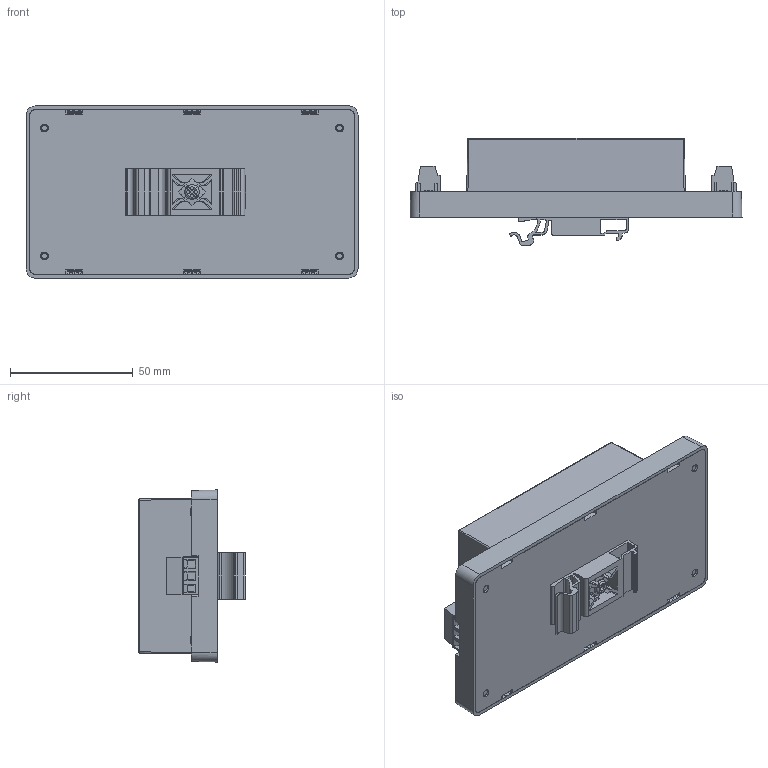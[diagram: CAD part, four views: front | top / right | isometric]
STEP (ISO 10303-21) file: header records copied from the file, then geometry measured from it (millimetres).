
FILE_DESCRIPTION (( 'STEP AP214' ), '1' );
FILE_NAME ('DH30(45)W10-XXDR.STEP', '2025-04-11T02:04:36', ( 'cincon' ), ( '' ), 'SwSTEP 2.0', 'SolidWorks 2020', '' );
FILE_SCHEMA (( 'AUTOMOTIVE_DESIGN' ));
Length unit declared in the file: millimetre
Products named in the file (1): DH30(45)W10-XXDR
Bounding box: 135 x 43.5 x 70 mm (x, y, z)
Volume: 68504.8 mm3; surface area: 98161.6 mm2
Topology: 1 solids, 1 shells, 1844 faces, 5229 edges, 3413 vertices
Faces by surface type: plane 1353, cylinder 319, torus 68, cone 51, bspline 41, sphere 12
Entity records: 90303 total; most frequent: CARTESIAN_POINT 22583, ORIENTED_EDGE 10450, DIRECTION 9127, EDGE_CURVE 5225, VECTOR 3955, LINE 3955, VERTEX_POINT 3413, AXIS2_PLACEMENT_3D 2586
